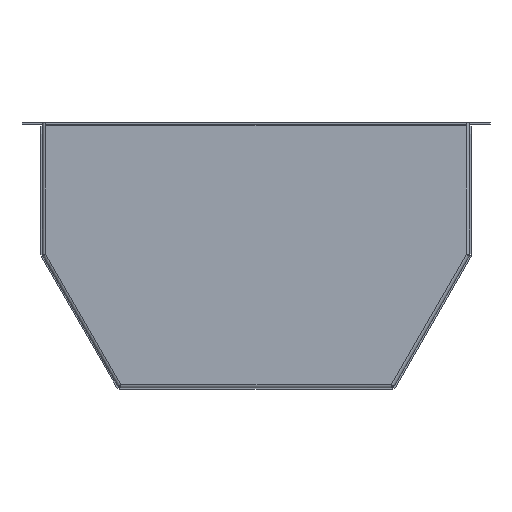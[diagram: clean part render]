
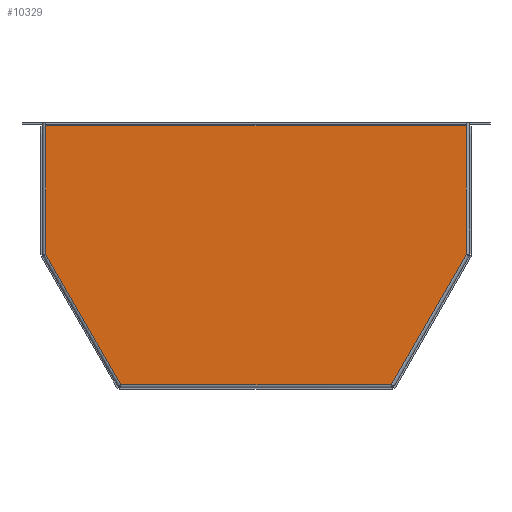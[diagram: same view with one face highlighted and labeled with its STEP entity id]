
A CAD part, front view. The second image highlights one B-rep face of the part: STEP entity #10329.
In plain terms, the highlighted planar face has unit normal (0, -1, 0).
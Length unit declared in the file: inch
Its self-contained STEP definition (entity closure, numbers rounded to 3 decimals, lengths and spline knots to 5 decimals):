
#307 = DIRECTION ( 'NONE',  ( 0., 1., 0. ) ) ;
#594 = CARTESIAN_POINT ( 'NONE',  ( -7.14094, -0.05906, 7.75 ) ) ;
#1180 = CARTESIAN_POINT ( 'NONE',  ( -7.14094, -0.05906, 3.27922 ) ) ;
#1594 = VECTOR ( 'NONE', #15849, 39.37008 ) ;
#1995 = DIRECTION ( 'NONE',  ( 1., 0., 0. ) ) ;
#2119 = VECTOR ( 'NONE', #10113, 39.37008 ) ;
#2202 = CARTESIAN_POINT ( 'NONE',  ( 7.14094, -0.05906, 3.27922 ) ) ;
#2459 = VECTOR ( 'NONE', #24527, 39.37008 ) ;
#2551 = DIRECTION ( 'NONE',  ( 0., 0., 1. ) ) ;
#3019 = ORIENTED_EDGE ( 'NONE', *, *, #7516, .T. ) ;
#3524 = CARTESIAN_POINT ( 'NONE',  ( -4.58896, -0.05906, -1.14094 ) ) ;
#4205 = EDGE_CURVE ( 'NONE', #11005, #15221, #19682, .T. ) ;
#4315 = CARTESIAN_POINT ( 'NONE',  ( 7.14094, -0.05906, 3.27922 ) ) ;
#5400 = VERTEX_POINT ( 'NONE', #16320 ) ;
#5586 = LINE ( 'NONE', #7954, #1594 ) ;
#5745 = CARTESIAN_POINT ( 'NONE',  ( -7.14094, -0.05906, 3.27922 ) ) ;
#6585 = EDGE_LOOP ( 'NONE', ( #25707, #8490, #13509, #24591, #20815, #3019 ) ) ;
#7516 = EDGE_CURVE ( 'NONE', #13875, #10272, #16266, .T. ) ;
#7789 = VECTOR ( 'NONE', #1995, 39.37008 ) ;
#7954 = CARTESIAN_POINT ( 'NONE',  ( -4.5951, -0.05906, -1.14094 ) ) ;
#8490 = ORIENTED_EDGE ( 'NONE', *, *, #15850, .T. ) ;
#9514 = CARTESIAN_POINT ( 'NONE',  ( -7.14094, -0.05906, 7.64094 ) ) ;
#10113 = DIRECTION ( 'NONE',  ( 0., 0., 1. ) ) ;
#10272 = VERTEX_POINT ( 'NONE', #10317 ) ;
#10317 = CARTESIAN_POINT ( 'NONE',  ( 7.14094, -0.05906, 7.64094 ) ) ;
#10329 = ADVANCED_FACE ( 'NONE', ( #22905 ), #18317, .F. ) ;
#11005 = VERTEX_POINT ( 'NONE', #5745 ) ;
#11078 = CARTESIAN_POINT ( 'NONE',  ( 4.58589, -0.05906, -1.14626 ) ) ;
#11691 = EDGE_CURVE ( 'NONE', #15660, #13875, #13065, .T. ) ;
#12311 = CARTESIAN_POINT ( 'NONE',  ( 4.58896, -0.05906, -1.14094 ) ) ;
#12719 = EDGE_CURVE ( 'NONE', #5400, #10272, #21717, .T. ) ;
#13065 = LINE ( 'NONE', #11078, #18704 ) ;
#13509 = ORIENTED_EDGE ( 'NONE', *, *, #4205, .T. ) ;
#13875 = VERTEX_POINT ( 'NONE', #4315 ) ;
#14673 = LINE ( 'NONE', #594, #2459 ) ;
#15187 = AXIS2_PLACEMENT_3D ( 'NONE', #20416, #307, #2551 ) ;
#15221 = VERTEX_POINT ( 'NONE', #3524 ) ;
#15411 = EDGE_CURVE ( 'NONE', #15221, #15660, #5586, .T. ) ;
#15660 = VERTEX_POINT ( 'NONE', #12311 ) ;
#15849 = DIRECTION ( 'NONE',  ( 1., 0., 0. ) ) ;
#15850 = EDGE_CURVE ( 'NONE', #5400, #11005, #14673, .T. ) ;
#16266 = LINE ( 'NONE', #2202, #2119 ) ;
#16320 = CARTESIAN_POINT ( 'NONE',  ( -7.14094, -0.05906, 7.64094 ) ) ;
#17095 = DIRECTION ( 'NONE',  ( 0.5, 0., 0.866 ) ) ;
#18317 = PLANE ( 'NONE',  #15187 ) ;
#18704 = VECTOR ( 'NONE', #17095, 39.37008 ) ;
#19682 = LINE ( 'NONE', #1180, #25584 ) ;
#20416 = CARTESIAN_POINT ( 'NONE',  ( 0., -0.05906, 0. ) ) ;
#20815 = ORIENTED_EDGE ( 'NONE', *, *, #11691, .T. ) ;
#21717 = LINE ( 'NONE', #9514, #7789 ) ;
#22905 = FACE_OUTER_BOUND ( 'NONE', #6585, .T. ) ;
#24527 = DIRECTION ( 'NONE',  ( 0., 0., -1. ) ) ;
#24591 = ORIENTED_EDGE ( 'NONE', *, *, #15411, .T. ) ;
#25246 = DIRECTION ( 'NONE',  ( 0.5, 0., -0.866 ) ) ;
#25584 = VECTOR ( 'NONE', #25246, 39.37008 ) ;
#25707 = ORIENTED_EDGE ( 'NONE', *, *, #12719, .F. ) ;
